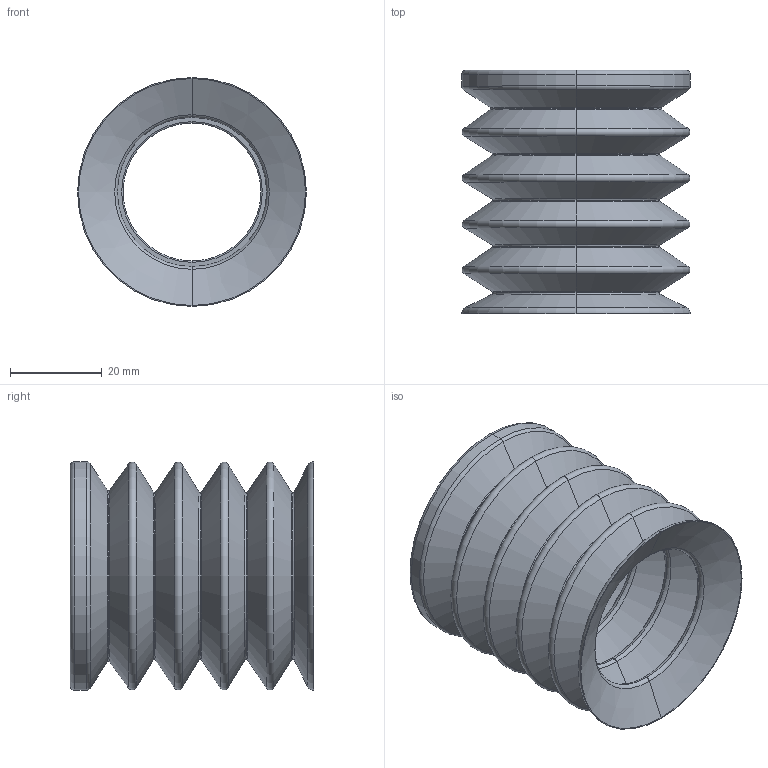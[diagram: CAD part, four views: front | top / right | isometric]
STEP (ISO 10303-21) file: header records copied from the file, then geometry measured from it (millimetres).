
FILE_DESCRIPTION (( 'STEP AP203' ), '1' );
FILE_NAME ('8K_50--A.STEP', '2017-08-24T09:34:30', ( '' ), ( '' ), 'SwSTEP 2.0', 'SolidWorks 2016', '' );
FILE_SCHEMA (( 'CONFIG_CONTROL_DESIGN' ));
Length unit declared in the file: millimetre
Products named in the file (1): 8K_50--A
Bounding box: 49.8 x 53 x 49.8 mm (x, y, z)
Volume: 18687.2 mm3; surface area: 24965 mm2
Topology: 1 solids, 1 shells, 117 faces, 234 edges, 120 vertices
Faces by surface type: torus 68, cone 40, cylinder 6, plane 3
Entity records: 3093 total; most frequent: DIRECTION 658, CARTESIAN_POINT 472, ORIENTED_EDGE 468, AXIS2_PLACEMENT_3D 306, EDGE_CURVE 234, CIRCLE 188, EDGE_LOOP 120, VERTEX_POINT 120
